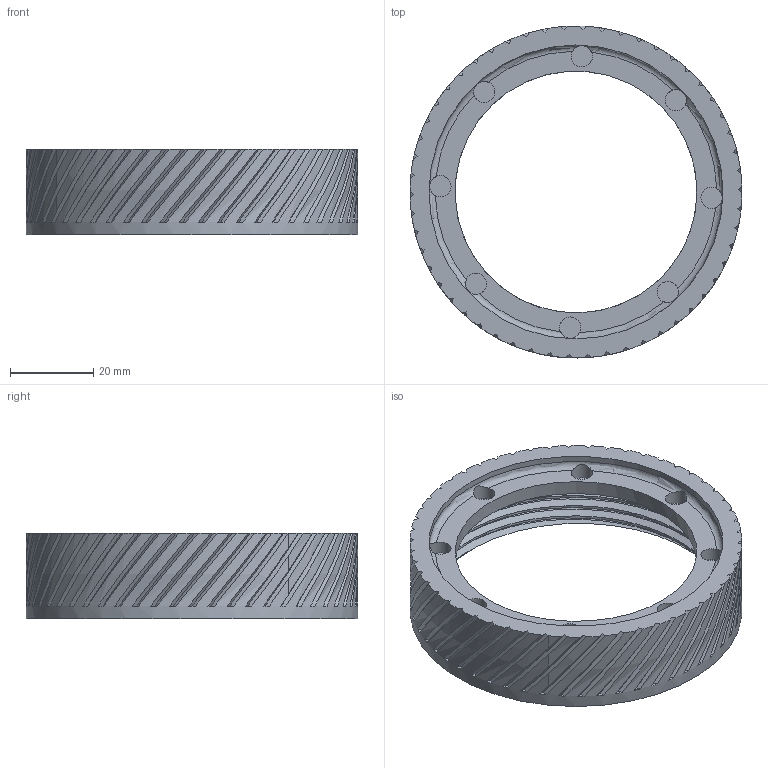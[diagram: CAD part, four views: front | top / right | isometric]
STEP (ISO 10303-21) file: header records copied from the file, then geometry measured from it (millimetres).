
FILE_DESCRIPTION(/* description */ ('STEP AP242','CAx-IF Rec.Pracs.---Representation and Presentation of Product Manufacturing Information (PMI)---4.0---2014-10-13','CAx-IF Rec.Pracs.---3D Tessellated Geometry---0.4---2014-09-14','2;1'),/* implementation_level */ '2;1');
FILE_NAME(/* name */ '64692777cac4670533c214d3',/* time_stamp */ '2023-05-20T20:03:04Z',/* author */ (''),/* organization */ (''),/* preprocessor_version */ 'ST-DEVELOPER v19.4',/* originating_system */ ' ',/* authorisation */ ' ');
FILE_SCHEMA (('AP242_MANAGED_MODEL_BASED_3D_ENGINEERING_MIM_LF { 1 0 10303 442 1 1 4 }'));
Length unit declared in the file: metre
Products named in the file (1): Base 27mm Magnet NoLug
Bounding box: 79.6 x 79.6 x 20.4 mm (x, y, z)
Volume: 25098.9 mm3; surface area: 16142.1 mm2
Topology: 1 solids, 1 shells, 230 faces, 676 edges, 451 vertices
Faces by surface type: bspline 135, plane 76, cylinder 15, cone 3, torus 1
Full cylindrical faces by diameter (mm): 5.1 x8, 58 x1, 70.5 x1, 79.6 x1
Entity records: 14109 total; most frequent: CARTESIAN_POINT 9638, ORIENTED_EDGE 1284, EDGE_CURVE 642, DIRECTION 502, VERTEX_POINT 433, B_SPLINE_CURVE_WITH_KNOTS 305, EDGE_LOOP 245, FACE_BOUND 245
